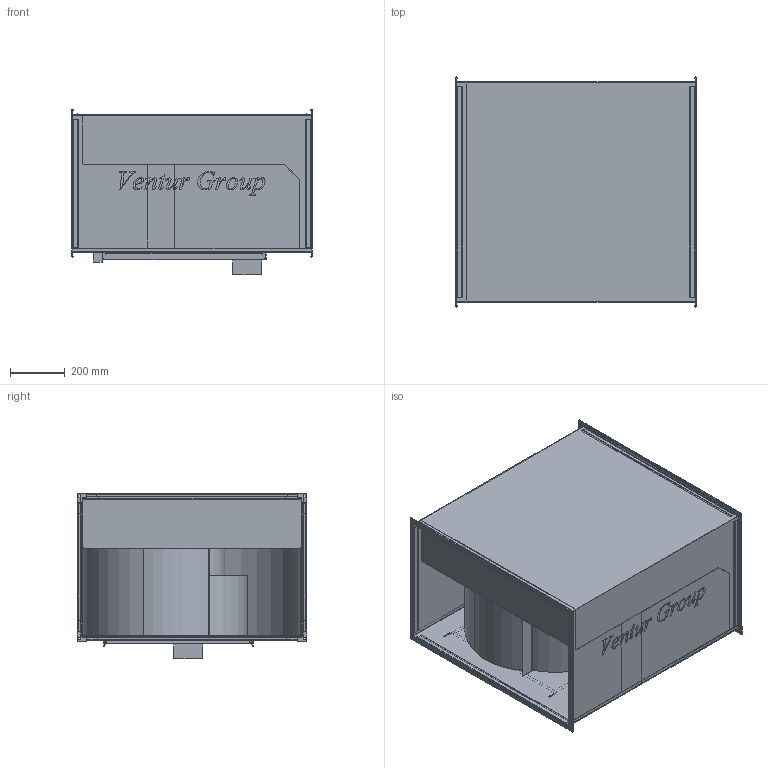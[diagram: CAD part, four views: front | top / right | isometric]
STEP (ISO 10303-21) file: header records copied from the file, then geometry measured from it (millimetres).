
FILE_DESCRIPTION(/* description */ (''),/* implementation_level */ '2;1');
FILE_NAME(/* name */ 'C:\Users\M.Janczarek\Documents\Modele uproszczone\IBF\IBF6_500T 41010220\IBF6_500T 41010220\Nowy folder\IBF6_500T 41010220.stp',/* time_stamp */ '2018-03-26T15:57:02+02:00',/* author */ ('M.Janczarek'),/* organization */ (''),/* preprocessor_version */ 'ST-DEVELOPER v16.5',/* originating_system */ 'Autodesk Inventor 2017',/* authorisation */ '');
FILE_SCHEMA (('AUTOMOTIVE_DESIGN { 1 0 10303 214 3 1 1 }'));
Length unit declared in the file: millimetre
Products named in the file (1): IBF6_500T 41010220
Bounding box: 880 x 841 x 604.18 mm (x, y, z)
Volume: 61165169.8 mm3; surface area: 9570829.5 mm2
Topology: 1 solids, 1 shells, 1176 faces, 3518 edges, 2314 vertices
Faces by surface type: plane 722, bspline 270, cylinder 184
Full cylindrical faces by diameter (mm): 9 x8, 340 x2, 504 x1
Entity records: 41400 total; most frequent: CARTESIAN_POINT 10410, ORIENTED_EDGE 6998, DIRECTION 5142, EDGE_CURVE 3499, LINE 2590, VECTOR 2590, VERTEX_POINT 2306, AXIS2_PLACEMENT_3D 1276
